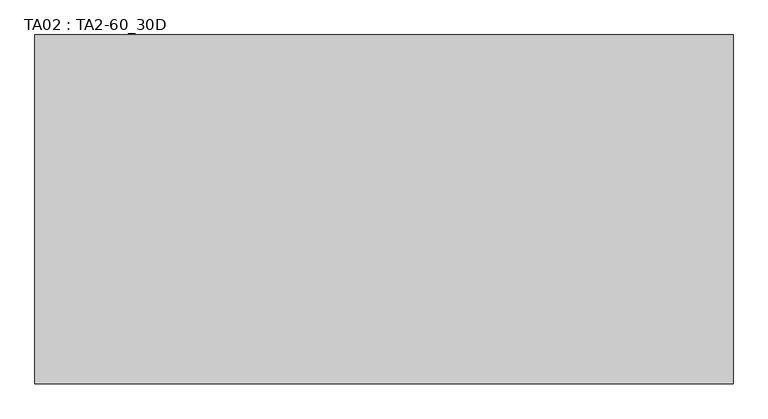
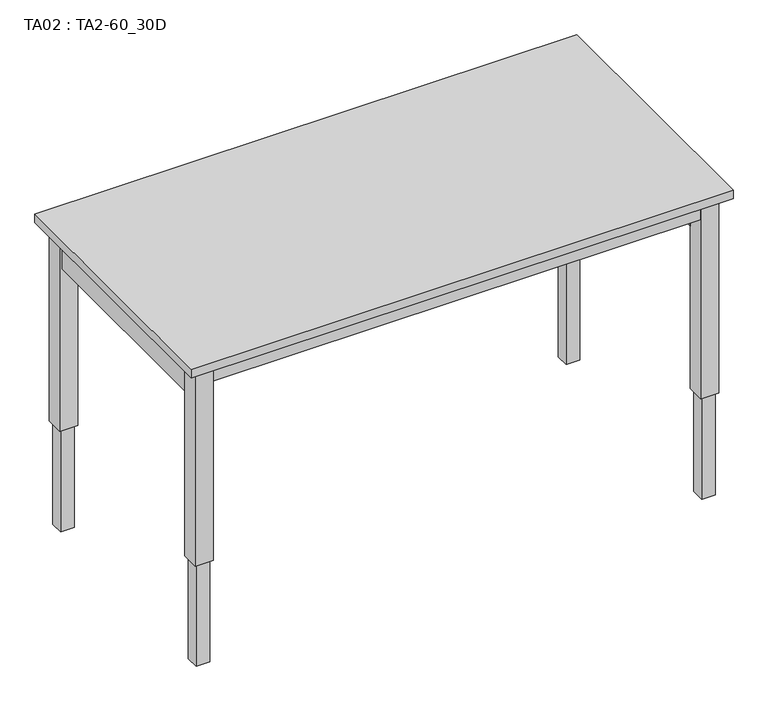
"""IFC4 building model written with IfcOpenShell, lengths in millimetres: furniture geometry, TA02 : TA2-60_30D."""

from ifc_helpers import new_model, si_unit, frame, origin, origin_with_axes, place, context, project, spatial, polyline, outline, extrude, source, transform, mapped, element, save


def ta02_ta2_60_30d_ad4b619c(model_context):
    return source(origin(), model_context, "Body", "SweptSolid", [
        extrude(outline(polyline([(755.3377049, -533.4), (755.3377049, -584.2), (704.5377049, -584.2), (704.5377049, -533.4), (755.3377049, -533.4)])), frame((0.0, 0.0, 304.8), z_axis=(0.0, 0.0, 1.0), x_axis=(1.0, 0.0, 0.0)), (0.0, 0.0, 1.0), 584.2),
        extrude(outline(polyline([(748.9877049, -539.75), (748.9877049, -577.85), (710.8877049, -577.85), (710.8877049, -539.75), (748.9877049, -539.75)])), origin_with_axes(), (0.0, 0.0, 1.0), 304.8),
        extrude(outline(polyline([(-667.0622951, -533.4), (-667.0622951, -584.2), (-717.8622951, -584.2), (-717.8622951, -533.4), (-667.0622951, -533.4)])), frame((0.0, 0.0, 304.8), z_axis=(0.0, 0.0, 1.0), x_axis=(1.0, 0.0, 0.0)), (0.0, 0.0, 1.0), 584.2),
        extrude(outline(polyline([(-673.4122951, -539.75), (-673.4122951, -577.85), (-711.5122951, -577.85), (-711.5122951, -539.75), (-673.4122951, -539.75)])), origin_with_axes(), (0.0, 0.0, 1.0), 304.8),
        extrude(outline(polyline([(755.3377049, 127.0), (755.3377049, 76.2), (704.5377049, 76.2), (704.5377049, 127.0), (755.3377049, 127.0)])), frame((0.0, 0.0, 304.8), z_axis=(0.0, 0.0, 1.0), x_axis=(1.0, 0.0, 0.0)), (0.0, 0.0, 1.0), 584.2),
        extrude(outline(polyline([(748.9877049, 120.65), (748.9877049, 82.55), (710.8877049, 82.55), (710.8877049, 120.65), (748.9877049, 120.65)])), origin_with_axes(), (0.0, 0.0, 1.0), 304.8),
        extrude(outline(polyline([(-667.0622951, 127.0), (-667.0622951, 76.2), (-717.8622951, 76.2), (-717.8622951, 127.0), (-667.0622951, 127.0)])), frame((0.0, 0.0, 304.8), z_axis=(0.0, 0.0, 1.0), x_axis=(1.0, 0.0, 0.0)), (0.0, 0.0, 1.0), 584.2),
        extrude(outline(polyline([(-673.4122951, 120.65), (-673.4122951, 82.55), (-711.5122951, 82.55), (-711.5122951, 120.65), (-673.4122951, 120.65)])), origin_with_axes(), (0.0, 0.0, 1.0), 304.8),
        extrude(outline(polyline([(704.5377049, 127.0), (704.5377049, 76.2), (-667.0622951, 76.2), (-667.0622951, 127.0), (704.5377049, 127.0)])), frame((0.0, 0.0, 838.2), z_axis=(0.0, 0.0, 1.0), x_axis=(1.0, 0.0, 0.0)), (0.0, 0.0, 1.0), 50.8),
        extrude(outline(polyline([(704.5377049, -584.2), (-667.0622951, -584.2), (-667.0622951, -533.4), (704.5377049, -533.4), (704.5377049, -584.2)])), frame((0.0, 0.0, 838.2), z_axis=(0.0, 0.0, 1.0), x_axis=(1.0, 0.0, 0.0)), (0.0, 0.0, 1.0), 50.8),
        extrude(outline(polyline([(748.9877049, -533.4), (704.5377049, -533.4), (704.5377049, 76.2), (748.9877049, 76.2), (748.9877049, -533.4)])), frame((0.0, 0.0, 787.4), z_axis=(0.0, 0.0, 1.0), x_axis=(1.0, 0.0, 0.0)), (0.0, 0.0, 1.0), 101.6),
        extrude(outline(polyline([(-711.5122951, -533.4), (-711.5122951, 76.2), (-667.0622951, 76.2), (-667.0622951, -533.4), (-711.5122951, -533.4)])), frame((0.0, 0.0, 787.4), z_axis=(0.0, 0.0, 1.0), x_axis=(1.0, 0.0, 0.0)), (0.0, 0.0, 1.0), 101.6),
        extrude(outline(polyline([(780.7377049, 152.4), (780.7377049, -609.6), (-743.2622951, -609.6), (-743.2622951, 152.4), (780.7377049, 152.4)])), frame((0.0, 0.0, 889.0), z_axis=(0.0, 0.0, 1.0), x_axis=(1.0, 0.0, 0.0)), (0.0, 0.0, 1.0), 25.4),
    ])


if __name__ == "__main__":
    model = new_model("IFC4")
    model_context = context("Model", 3, world=origin())
    ifc_project = project(units=[si_unit("LENGTHUNIT", "METRE", prefix="MILLI")], contexts=[model_context])
    site = spatial("IfcSite", under=ifc_project)
    building = spatial("IfcBuilding", under=site)
    placement = place(None, origin())
    ta02_ta2_60_30d_shape = ta02_ta2_60_30d_ad4b619c(model_context)
    element("IfcFurniture", 1, ObjectType="TA02 : TA2-60_30D", at=placement, inside=building, context=model_context, shape_type="MappedRepresentation", body=[
        mapped(ta02_ta2_60_30d_shape, transform((0.0, 0.0, 0.0), x_axis=(1.0, 0.0, 0.0), y_axis=(0.0, 1.0, 0.0), z_axis=(0.0, 0.0, 1.0))),
    ])
    save(model, "model.ifc")
